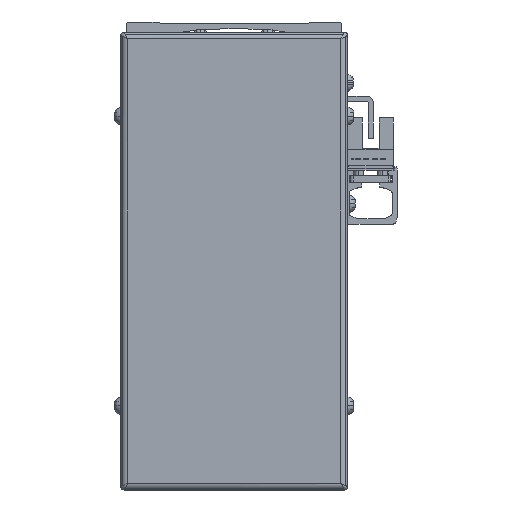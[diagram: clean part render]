
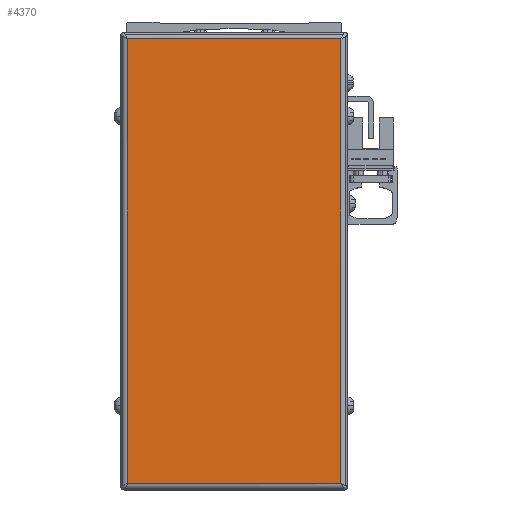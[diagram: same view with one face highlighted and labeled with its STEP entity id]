
A CAD part, front view. The second image highlights one B-rep face of the part: STEP entity #4370.
In plain terms, the highlighted planar face has unit normal (0, -1, 0).
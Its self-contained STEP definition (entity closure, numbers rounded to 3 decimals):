
#4370=ADVANCED_FACE('',(#9856),#9857,.T.);
#9856=FACE_OUTER_BOUND('',#17558,.T.);
#9857=PLANE('',#17559);
#17558=EDGE_LOOP('',(#29560,#29561,#29562,#29563));
#17559=AXIS2_PLACEMENT_3D('',#29564,#29565,#29566);
#29560=ORIENTED_EDGE('',*,*,#46421,.F.);
#29561=ORIENTED_EDGE('',*,*,#43959,.F.);
#29562=ORIENTED_EDGE('',*,*,#46422,.F.);
#29563=ORIENTED_EDGE('',*,*,#46423,.F.);
#29564=CARTESIAN_POINT('',(300.,131.,-44.));
#29565=DIRECTION('',(0.,-1.0,0.));
#29566=DIRECTION('',(0.,0.,1.0));
#43959=EDGE_CURVE('',#53100,#53102,#53103,.T.);
#46421=EDGE_CURVE('',#53102,#57026,#57027,.T.);
#46422=EDGE_CURVE('',#51251,#53100,#57028,.T.);
#46423=EDGE_CURVE('',#57026,#51251,#57029,.T.);
#51251=VERTEX_POINT('',#63265);
#53100=VERTEX_POINT('',#65891);
#53102=VERTEX_POINT('',#65893);
#53103=LINE('',#65894,#65895);
#57026=VERTEX_POINT('',#71511);
#57027=LINE('',#71512,#71513);
#57028=LINE('',#71514,#71515);
#57029=LINE('',#71516,#71517);
#63265=CARTESIAN_POINT('',(331.7,131.,-110.));
#65891=CARTESIAN_POINT('',(268.3,131.,-110.));
#65893=CARTESIAN_POINT('',(268.3,131.,22.));
#65894=CARTESIAN_POINT('',(268.3,131.,-44.));
#65895=VECTOR('',#80049,10.0);
#71511=CARTESIAN_POINT('',(331.7,131.,22.));
#71512=CARTESIAN_POINT('',(300.,131.,22.));
#71513=VECTOR('',#82998,10.0);
#71514=CARTESIAN_POINT('',(300.,131.,-110.));
#71515=VECTOR('',#82999,10.0);
#71516=CARTESIAN_POINT('',(331.7,131.,-44.));
#71517=VECTOR('',#83000,10.0);
#80049=DIRECTION('',(0.,0.,1.0));
#82998=DIRECTION('',(1.0,0.,0.));
#82999=DIRECTION('',(-1.0,0.,0.));
#83000=DIRECTION('',(0.,0.,-1.0));
